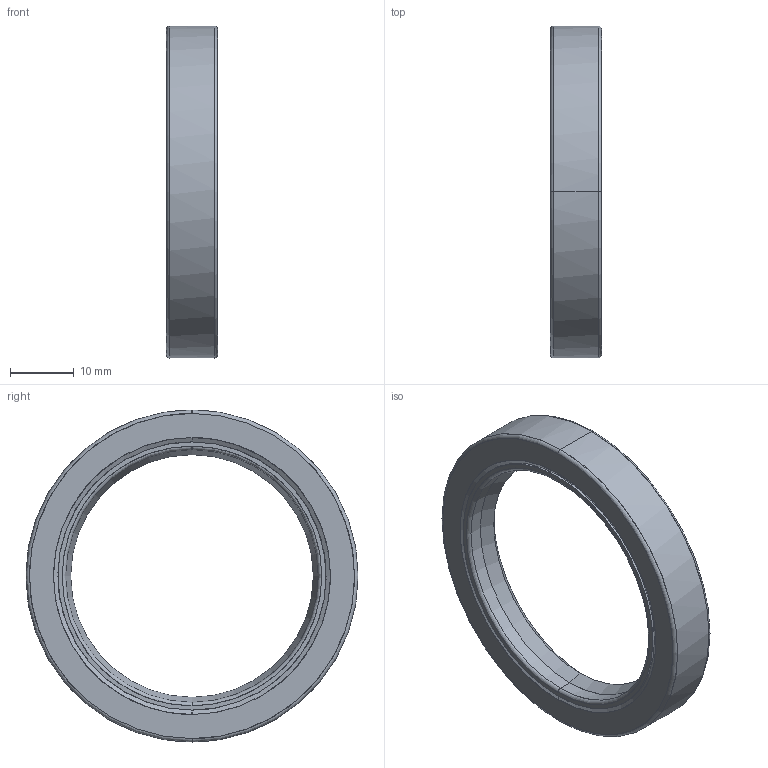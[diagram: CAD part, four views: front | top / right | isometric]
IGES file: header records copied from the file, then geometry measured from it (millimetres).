
Start section: START RECORD GO HERE.
Global section: file name: JointSKFCRS120.igs; native system: IBM CATIA IGES - CATIA Version 5 Release 18 ; preprocessor: CATIA Version 5 Release 18 ; author: Propriétaire; organization: FUJITSU-79916BB; date: 20090111.191230; units: millimetre
Bounding box: 8 x 52 x 52 mm (x, y, z)
Surface area: 5916.7 mm2 (no closed solid volume)
Topology: 0 solids, 0 shells, 41 faces, 164 edges, 164 vertices
Faces by surface type: revolution 34, plane 7
